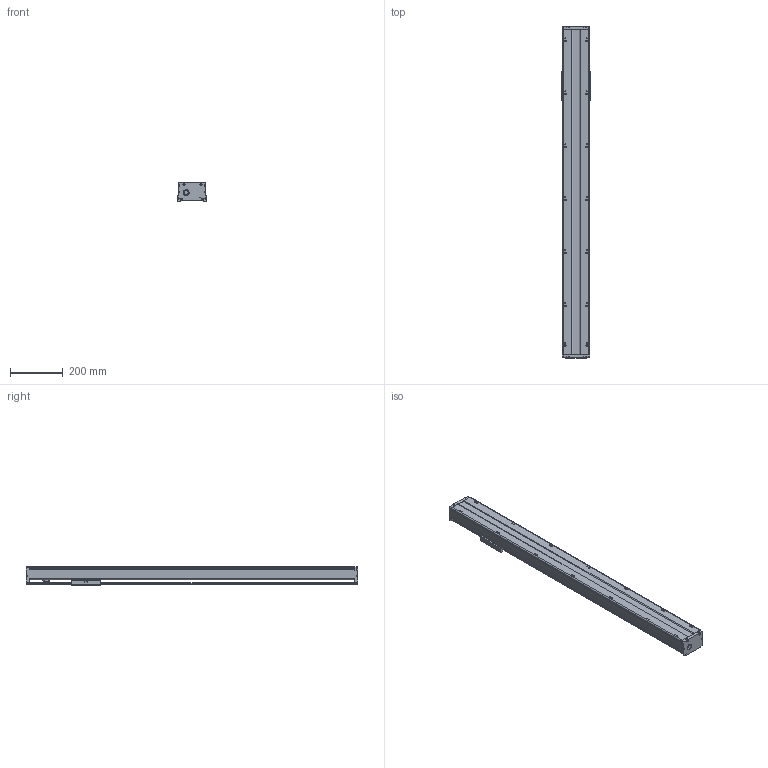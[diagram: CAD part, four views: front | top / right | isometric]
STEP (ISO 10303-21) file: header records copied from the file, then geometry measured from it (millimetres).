
FILE_DESCRIPTION(/* description */ (''),/* implementation_level */ '2;1');
FILE_NAME(/* name */ 'TKA100-1000A1F0_asm1.stp',/* time_stamp */ '2017-02-20T16:28:25+08:00',/* author */ (''),/* organization */ (''),/* preprocessor_version */ 'ST-DEVELOPER v15',/* originating_system */ 'SIEMENS PLM Software NX 8.5',/* authorisation */ '');
FILE_SCHEMA (('AUTOMOTIVE_DESIGN { 1 0 10303 214 3 1 1 1 }'));
Length unit declared in the file: millimetre
Products named in the file (3): 200-02; 200-01; TKA100-1000A1F0_asm1_stp
Assembly tree (2 placements, depth 2):
  TKA100-1000A1F0_asm1_stp
    200-01
    200-02
Bounding box: 110 x 1254 x 71 mm (x, y, z)
Volume: 2526942.7 mm3; surface area: 843215.8 mm2
Topology: 2 solids, 10 shells, 709 faces, 1881 edges, 1230 vertices
Faces by surface type: cylinder 279, plane 263, cone 114, torus 27, bspline 26
Full cylindrical faces by diameter (mm): 2.5 x6, 2.6 x8, 3.3 x8, 3.4 x8, 3.8 x4, 4.2 x23, 4.3 x4, 4.5 x4, 5 x1, 5.5 x22, 6.6 x4, 8 x5, 9 x4, 10 x14, 11 x4, 12 x6, 12.05 x2, 15.3 x1, 15.4 x1, 16 x1, 17 x2, 18 x1, 22 x1, 24 x1, 28 x5, 30 x1
Entity records: 26348 total; most frequent: CARTESIAN_POINT 9902, DIRECTION 3363, ORIENTED_EDGE 3108, EDGE_CURVE 1554, AXIS2_PLACEMENT_3D 1355, VERTEX_POINT 1151, EDGE_LOOP 1046, ADVANCED_FACE 709
